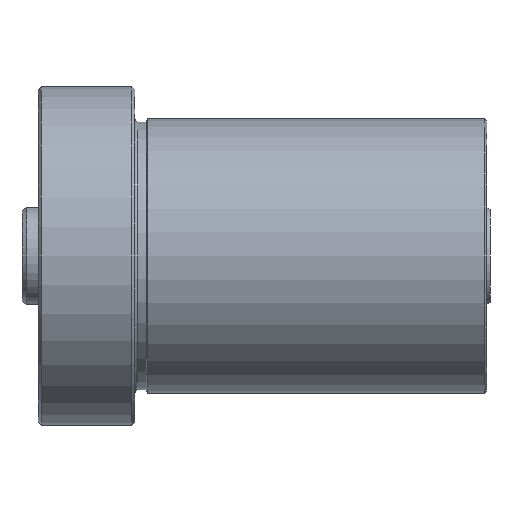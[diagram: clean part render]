
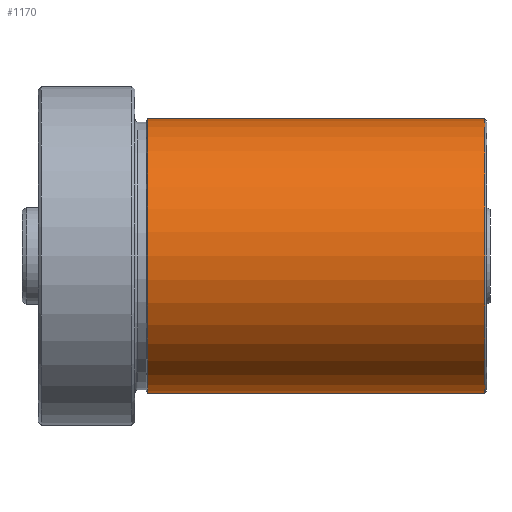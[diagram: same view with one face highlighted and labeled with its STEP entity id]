
A CAD part, left-side view. The second image highlights one B-rep face of the part: STEP entity #1170.
In plain terms, the highlighted cylindrical face has radius 42.5 mm (diameter 85 mm), a partial arc.
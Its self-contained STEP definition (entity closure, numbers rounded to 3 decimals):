
#10 = ORIENTED_EDGE ( 'NONE', *, *, #2742, .F. ) ;
#49 = ORIENTED_EDGE ( 'NONE', *, *, #3197, .T. ) ;
#100 = VERTEX_POINT ( 'NONE', #3577 ) ;
#138 = DIRECTION ( 'NONE',  ( 0., -1., 0. ) ) ;
#321 = CYLINDRICAL_SURFACE ( 'NONE', #2787, 42.5 ) ;
#368 = VERTEX_POINT ( 'NONE', #1888 ) ;
#394 = CARTESIAN_POINT ( 'NONE',  ( 0., 0.577, -42.5 ) ) ;
#440 = VECTOR ( 'NONE', #764, 1000. ) ;
#444 = CARTESIAN_POINT ( 'NONE',  ( 0., -19.137, 0. ) ) ;
#579 = CIRCLE ( 'NONE', #1345, 42.5 ) ;
#660 = EDGE_LOOP ( 'NONE', ( #49, #1161, #10, #3860 ) ) ;
#699 = VERTEX_POINT ( 'NONE', #2830 ) ;
#717 = VERTEX_POINT ( 'NONE', #394 ) ;
#764 = DIRECTION ( 'NONE',  ( 0., -1., 0. ) ) ;
#818 = VECTOR ( 'NONE', #1729, 1000. ) ;
#1161 = ORIENTED_EDGE ( 'NONE', *, *, #3498, .T. ) ;
#1170 = ADVANCED_FACE ( 'NONE', ( #2269 ), #321, .T. ) ;
#1320 = DIRECTION ( 'NONE',  ( 0., -1., 0. ) ) ;
#1345 = AXIS2_PLACEMENT_3D ( 'NONE', #3808, #138, #2853 ) ;
#1424 = LINE ( 'NONE', #1456, #818 ) ;
#1456 = CARTESIAN_POINT ( 'NONE',  ( 0., -19.137, 42.5 ) ) ;
#1634 = CARTESIAN_POINT ( 'NONE',  ( 0., 105., 0. ) ) ;
#1729 = DIRECTION ( 'NONE',  ( 0., -1., 0. ) ) ;
#1888 = CARTESIAN_POINT ( 'NONE',  ( 0., 105., 42.5 ) ) ;
#1932 = DIRECTION ( 'NONE',  ( 0., 0., -1. ) ) ;
#2259 = CARTESIAN_POINT ( 'NONE',  ( 0., -19.137, -42.5 ) ) ;
#2269 = FACE_OUTER_BOUND ( 'NONE', #660, .T. ) ;
#2491 = DIRECTION ( 'NONE',  ( 0., -1., 0. ) ) ;
#2522 = DIRECTION ( 'NONE',  ( 0., 0., -1. ) ) ;
#2684 = EDGE_CURVE ( 'NONE', #699, #717, #2986, .T. ) ;
#2742 = EDGE_CURVE ( 'NONE', #717, #100, #579, .T. ) ;
#2787 = AXIS2_PLACEMENT_3D ( 'NONE', #444, #1320, #1932 ) ;
#2801 = CIRCLE ( 'NONE', #2845, 42.5 ) ;
#2830 = CARTESIAN_POINT ( 'NONE',  ( 0., 105., -42.5 ) ) ;
#2845 = AXIS2_PLACEMENT_3D ( 'NONE', #1634, #2491, #2522 ) ;
#2853 = DIRECTION ( 'NONE',  ( 0., 0., -1. ) ) ;
#2986 = LINE ( 'NONE', #2259, #440 ) ;
#3197 = EDGE_CURVE ( 'NONE', #699, #368, #2801, .T. ) ;
#3498 = EDGE_CURVE ( 'NONE', #368, #100, #1424, .T. ) ;
#3577 = CARTESIAN_POINT ( 'NONE',  ( 0., 0.577, 42.5 ) ) ;
#3808 = CARTESIAN_POINT ( 'NONE',  ( 0., 0.577, 0. ) ) ;
#3860 = ORIENTED_EDGE ( 'NONE', *, *, #2684, .F. ) ;
